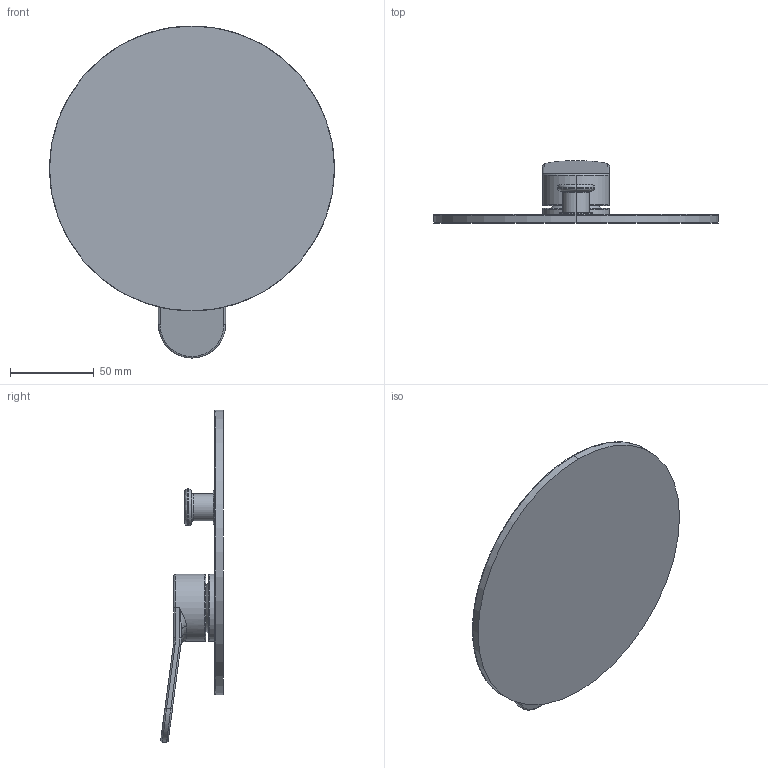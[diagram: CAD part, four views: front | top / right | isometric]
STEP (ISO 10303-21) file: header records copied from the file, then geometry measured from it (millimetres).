
FILE_DESCRIPTION (( 'STEP AP203' ), '1' );
FILE_NAME ('XX1153.STEP', '2023-12-21T15:45:19', ( '' ), ( '' ), 'SwSTEP 2.0', 'SolidWorks 2020', '' );
FILE_SCHEMA (( 'CONFIG_CONTROL_DESIGN' ));
Length unit declared in the file: millimetre
Products named in the file (1): XX1153
Bounding box: 170 x 37.35 x 198.08 mm (x, y, z)
Volume: 158345.8 mm3; surface area: 58537.1 mm2
Topology: 1 solids, 1 shells, 68 faces, 149 edges, 88 vertices
Faces by surface type: bspline 29, cylinder 25, plane 14
Entity records: 3766 total; most frequent: CARTESIAN_POINT 2369, ORIENTED_EDGE 294, DIRECTION 251, EDGE_CURVE 147, AXIS2_PLACEMENT_3D 106, VERTEX_POINT 88, EDGE_LOOP 75, FACE_OUTER_BOUND 68
